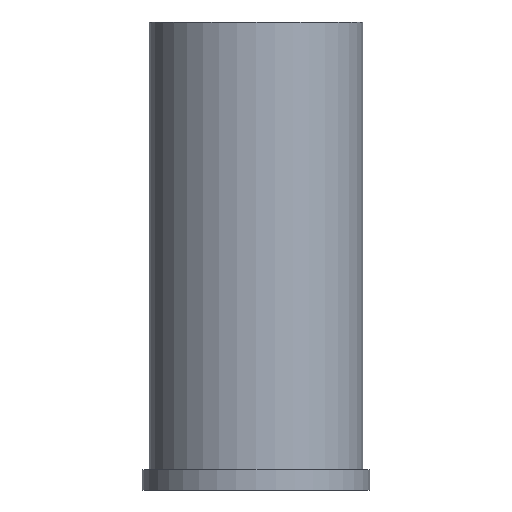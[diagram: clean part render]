
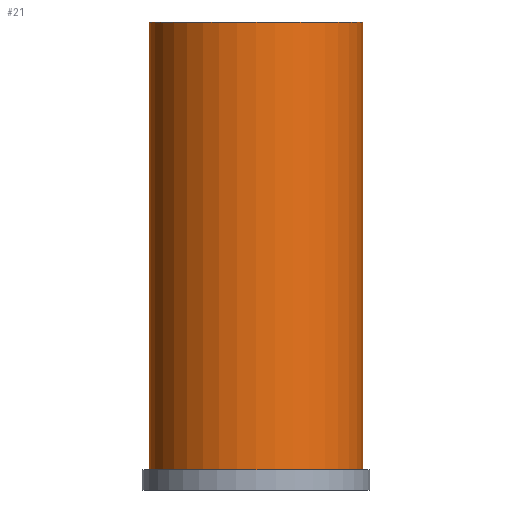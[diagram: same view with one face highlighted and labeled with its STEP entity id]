
A CAD part, front view. The second image highlights one B-rep face of the part: STEP entity #21.
In plain terms, the highlighted cylindrical face has radius 25.406 mm (diameter 50.813 mm), a full revolution.
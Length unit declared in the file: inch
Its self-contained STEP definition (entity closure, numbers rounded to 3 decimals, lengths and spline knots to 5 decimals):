
#3 = FACE_OUTER_BOUND ( 'NONE', #232, .T. ) ;
#10 = DIRECTION ( 'NONE',  ( 1., 0., 0. ) ) ;
#21 = ADVANCED_FACE ( 'NONE', ( #3, #50 ), #233, .T. ) ;
#32 = DIRECTION ( 'NONE',  ( 0., 0., 1. ) ) ;
#44 = AXIS2_PLACEMENT_3D ( 'NONE', #160, #136, #10 ) ;
#47 = ORIENTED_EDGE ( 'NONE', *, *, #202, .F. ) ;
#50 = FACE_OUTER_BOUND ( 'NONE', #116, .T. ) ;
#53 = EDGE_CURVE ( 'NONE', #234, #234, #93, .T. ) ;
#65 = CIRCLE ( 'NONE', #44, 1.00025 ) ;
#67 = DIRECTION ( 'NONE',  ( 1., 0., 0. ) ) ;
#69 = CARTESIAN_POINT ( 'NONE',  ( 0., 0., 0.187 ) ) ;
#93 = CIRCLE ( 'NONE', #249, 1.00025 ) ;
#116 = EDGE_LOOP ( 'NONE', ( #47 ) ) ;
#126 = VERTEX_POINT ( 'NONE', #227 ) ;
#129 = DIRECTION ( 'NONE',  ( 0., 0., -1. ) ) ;
#136 = DIRECTION ( 'NONE',  ( 0., 0., 1. ) ) ;
#160 = CARTESIAN_POINT ( 'NONE',  ( 0., 0., 4.375 ) ) ;
#164 = CARTESIAN_POINT ( 'NONE',  ( 1.00025, 0., 0.187 ) ) ;
#170 = CARTESIAN_POINT ( 'NONE',  ( 0., 0., 4.375 ) ) ;
#191 = DIRECTION ( 'NONE',  ( -1., 0., 0. ) ) ;
#202 = EDGE_CURVE ( 'NONE', #126, #126, #65, .T. ) ;
#213 = ORIENTED_EDGE ( 'NONE', *, *, #53, .T. ) ;
#227 = CARTESIAN_POINT ( 'NONE',  ( 1.00025, 0., 4.375 ) ) ;
#232 = EDGE_LOOP ( 'NONE', ( #213 ) ) ;
#233 = CYLINDRICAL_SURFACE ( 'NONE', #256, 1.00025 ) ;
#234 = VERTEX_POINT ( 'NONE', #164 ) ;
#249 = AXIS2_PLACEMENT_3D ( 'NONE', #69, #32, #67 ) ;
#256 = AXIS2_PLACEMENT_3D ( 'NONE', #170, #129, #191 ) ;
